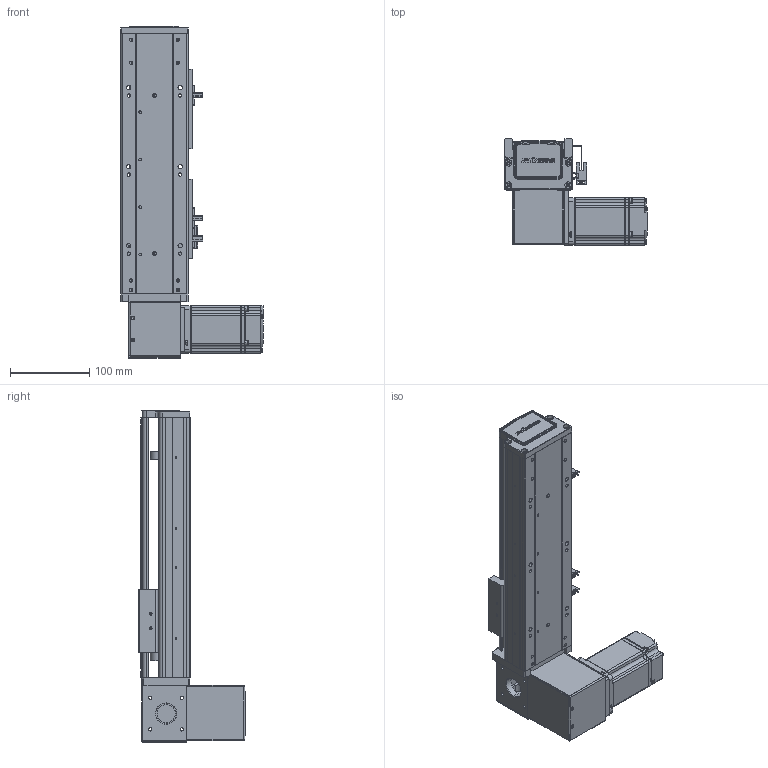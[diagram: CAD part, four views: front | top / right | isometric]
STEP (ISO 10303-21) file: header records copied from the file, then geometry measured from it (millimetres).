
FILE_DESCRIPTION (( 'STEP AP203' ), '1' );
FILE_NAME ('RY80-T-300-DR.SLDASM_150.step', '2021-03-01T01:49:00', ( '盈信电脑' ), ( '东莞市道滘镇水果街19号' ), 'SwSTEP 2.0', 'SolidWorks 2012', '' );
FILE_SCHEMA (( 'CONFIG_CONTROL_DESIGN' ));
Length unit declared in the file: millimetre
Products named in the file (18): RY80-T-300-DR.SLDASM_150; RY80-T-M4蹟翐3; RY80-T-上下折同步轮盖板; RY80-T肮祭謫狟殏俋欶; 1; RY80-T萇儂假蚾啣; RY80-T肮祭湍揤輸2; RY80-T翋肮祭謫裔啣; RY80-T肮祭湍揤輸1; 滅袉蝶18-10; RY80-T-翋肮祭謫釱; RY80俋离覜茼え; 覜茼ん672; RY80-T綴裔啣; RY80-T肮祭謫臏賑輸; RY80-T-300-DR倰第奻裔啣_150; 672嫖萇羲壽假蚾釱; RY80-T-300-DR倰第菁釱_150
Assembly tree (21 placements, depth 2):
  RY80-T-300-DR.SLDASM_150
    RY80-T-300-DR倰第菁釱_150
    RY80-T肮祭謫臏賑輸
    RY80-T-300-DR倰第奻裔啣_150
    RY80-T綴裔啣
    672嫖萇羲壽假蚾釱  x2
    覜茼ん672  x3
    RY80俋离覜茼え
    RY80-T-翋肮祭謫釱
    RY80-T肮祭湍揤輸1
    RY80-T肮祭湍揤輸2
    滅袉蝶18-10  x2
    RY80-T翋肮祭謫裔啣
    RY80-T-上下折同步轮盖板
    RY80-T肮祭謫狟殏俋欶
    RY80-T萇儂假蚾啣
    1
    RY80-T-M4蹟翐3
Bounding box: 180 x 134.5 x 420 mm (x, y, z)
Volume: 1065683.3 mm3; surface area: 408423.6 mm2
Topology: 21 solids, 21 shells, 2248 faces, 6170 edges, 4002 vertices
Faces by surface type: plane 1275, cylinder 780, cone 137, bspline 56
Entity records: 69826 total; most frequent: CARTESIAN_POINT 15976, ORIENTED_EDGE 10984, DIRECTION 10466, EDGE_CURVE 5492, VERTEX_POINT 3606, VECTOR 3562, LINE 3562, AXIS2_PLACEMENT_3D 3452
